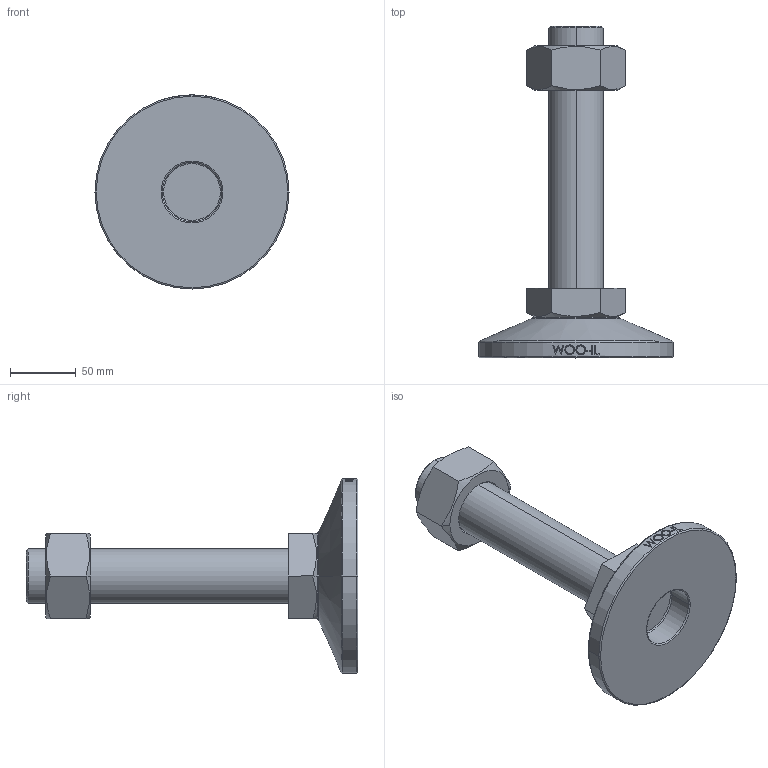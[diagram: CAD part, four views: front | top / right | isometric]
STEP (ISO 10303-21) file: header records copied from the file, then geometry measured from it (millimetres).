
FILE_DESCRIPTION (( 'STEP AP214' ), '1' );
FILE_NAME ('MF148-M42-200.step', '2021-02-03T08:15:55', ( '' ), ( '' ), 'SwSTEP 2.0', 'SolidWorks 2019', '' );
FILE_SCHEMA (( 'AUTOMOTIVE_DESIGN' ));
Length unit declared in the file: millimetre
Products named in the file (2): MF148-M42-200
Bounding box: 148 x 253 x 148 mm (x, y, z)
Volume: 787645 mm3; surface area: 98355.3 mm2
Topology: 3 solids, 3 shells, 106 faces, 243 edges, 154 vertices
Faces by surface type: plane 48, cylinder 18, bspline 16, cone 14, torus 10
Entity records: 4562 total; most frequent: CARTESIAN_POINT 2219, ORIENTED_EDGE 486, DIRECTION 439, EDGE_CURVE 243, AXIS2_PLACEMENT_3D 170, VERTEX_POINT 154, EDGE_LOOP 119, FACE_OUTER_BOUND 106
